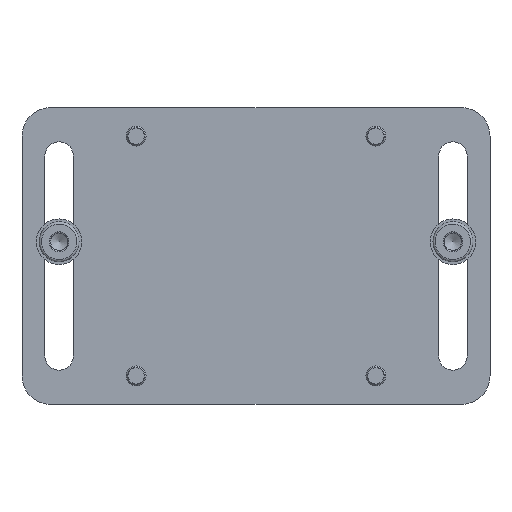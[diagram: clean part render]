
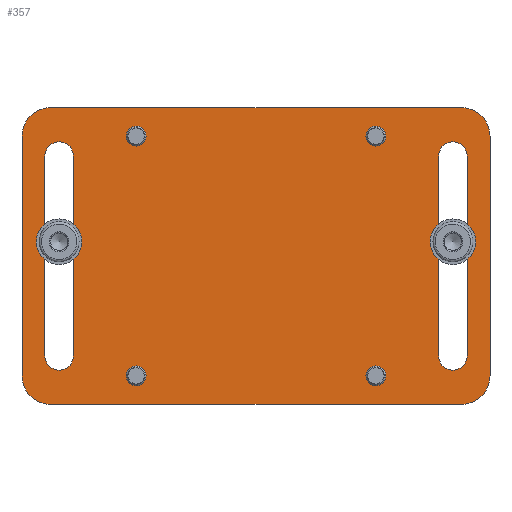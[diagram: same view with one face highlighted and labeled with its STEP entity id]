
A CAD part, front view. The second image highlights one B-rep face of the part: STEP entity #357.
In plain terms, the highlighted planar face has unit normal (0, -1, 0).
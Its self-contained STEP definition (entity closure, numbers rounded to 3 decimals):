
#207=FACE_BOUND('',#574,.T.);
#208=FACE_BOUND('',#575,.T.);
#209=FACE_BOUND('',#576,.T.);
#210=FACE_BOUND('',#577,.T.);
#211=FACE_BOUND('',#578,.T.);
#212=FACE_BOUND('',#579,.T.);
#213=FACE_BOUND('',#580,.T.);
#276=CIRCLE('',#1578,2.5);
#278=CIRCLE('',#1583,2.5);
#280=CIRCLE('',#1587,5.);
#282=CIRCLE('',#1591,5.);
#284=CIRCLE('',#1595,5.);
#286=CIRCLE('',#1599,5.);
#288=CIRCLE('',#1602,2.5);
#291=CIRCLE('',#1606,1.75);
#293=CIRCLE('',#1609,1.75);
#295=CIRCLE('',#1612,1.75);
#297=CIRCLE('',#1615,1.75);
#298=CIRCLE('',#1618,2.5);
#357=ADVANCED_FACE('',(#207,#208,#209,#210,#211,#212,#213),#435,.F.);
#435=PLANE('',#1626);
#574=EDGE_LOOP('',(#761,#762,#763,#764,#765,#766,#767,#768));
#575=EDGE_LOOP('',(#769));
#576=EDGE_LOOP('',(#770));
#577=EDGE_LOOP('',(#771));
#578=EDGE_LOOP('',(#772));
#579=EDGE_LOOP('',(#773,#774,#775,#776));
#580=EDGE_LOOP('',(#777,#778,#779,#780));
#761=ORIENTED_EDGE('',*,*,#1184,.F.);
#762=ORIENTED_EDGE('',*,*,#1216,.F.);
#763=ORIENTED_EDGE('',*,*,#1203,.F.);
#764=ORIENTED_EDGE('',*,*,#1200,.F.);
#765=ORIENTED_EDGE('',*,*,#1197,.F.);
#766=ORIENTED_EDGE('',*,*,#1194,.F.);
#767=ORIENTED_EDGE('',*,*,#1191,.F.);
#768=ORIENTED_EDGE('',*,*,#1188,.F.);
#769=ORIENTED_EDGE('',*,*,#1215,.T.);
#770=ORIENTED_EDGE('',*,*,#1213,.T.);
#771=ORIENTED_EDGE('',*,*,#1211,.T.);
#772=ORIENTED_EDGE('',*,*,#1209,.T.);
#773=ORIENTED_EDGE('',*,*,#1174,.F.);
#774=ORIENTED_EDGE('',*,*,#1206,.F.);
#775=ORIENTED_EDGE('',*,*,#1181,.F.);
#776=ORIENTED_EDGE('',*,*,#1178,.F.);
#777=ORIENTED_EDGE('',*,*,#1164,.T.);
#778=ORIENTED_EDGE('',*,*,#1218,.T.);
#779=ORIENTED_EDGE('',*,*,#1171,.T.);
#780=ORIENTED_EDGE('',*,*,#1168,.T.);
#1037=VERTEX_POINT('',#2187);
#1038=VERTEX_POINT('',#2188);
#1041=VERTEX_POINT('',#2196);
#1043=VERTEX_POINT('',#2202);
#1045=VERTEX_POINT('',#2208);
#1046=VERTEX_POINT('',#2209);
#1049=VERTEX_POINT('',#2217);
#1051=VERTEX_POINT('',#2223);
#1053=VERTEX_POINT('',#2229);
#1054=VERTEX_POINT('',#2230);
#1057=VERTEX_POINT('',#2238);
#1059=VERTEX_POINT('',#2244);
#1061=VERTEX_POINT('',#2250);
#1063=VERTEX_POINT('',#2256);
#1065=VERTEX_POINT('',#2262);
#1067=VERTEX_POINT('',#2268);
#1070=VERTEX_POINT('',#2279);
#1072=VERTEX_POINT('',#2284);
#1074=VERTEX_POINT('',#2289);
#1076=VERTEX_POINT('',#2294);
#1164=EDGE_CURVE('',#1037,#1038,#1348,.T.);
#1168=EDGE_CURVE('',#1041,#1037,#276,.T.);
#1171=EDGE_CURVE('',#1043,#1041,#1353,.T.);
#1174=EDGE_CURVE('',#1045,#1046,#1356,.T.);
#1178=EDGE_CURVE('',#1046,#1049,#278,.T.);
#1181=EDGE_CURVE('',#1049,#1051,#1361,.T.);
#1184=EDGE_CURVE('',#1053,#1054,#280,.T.);
#1188=EDGE_CURVE('',#1054,#1057,#1366,.T.);
#1191=EDGE_CURVE('',#1057,#1059,#282,.T.);
#1194=EDGE_CURVE('',#1059,#1061,#1370,.T.);
#1197=EDGE_CURVE('',#1061,#1063,#284,.T.);
#1200=EDGE_CURVE('',#1063,#1065,#1374,.T.);
#1203=EDGE_CURVE('',#1065,#1067,#286,.T.);
#1206=EDGE_CURVE('',#1051,#1045,#288,.T.);
#1209=EDGE_CURVE('',#1070,#1070,#291,.T.);
#1211=EDGE_CURVE('',#1072,#1072,#293,.T.);
#1213=EDGE_CURVE('',#1074,#1074,#295,.T.);
#1215=EDGE_CURVE('',#1076,#1076,#297,.T.);
#1216=EDGE_CURVE('',#1067,#1053,#1378,.T.);
#1218=EDGE_CURVE('',#1038,#1043,#298,.T.);
#1348=LINE('',#2186,#1462);
#1353=LINE('',#2201,#1467);
#1356=LINE('',#2207,#1470);
#1361=LINE('',#2222,#1475);
#1366=LINE('',#2237,#1480);
#1370=LINE('',#2249,#1484);
#1374=LINE('',#2261,#1488);
#1378=LINE('',#2296,#1492);
#1462=VECTOR('',#1743,1.);
#1467=VECTOR('',#1756,1.);
#1470=VECTOR('',#1761,1.);
#1475=VECTOR('',#1774,1.);
#1480=VECTOR('',#1787,1.);
#1484=VECTOR('',#1799,1.);
#1488=VECTOR('',#1811,1.);
#1492=VECTOR('',#1853,1.);
#1578=AXIS2_PLACEMENT_3D('',#2195,#1749,#1750);
#1583=AXIS2_PLACEMENT_3D('',#2216,#1767,#1768);
#1587=AXIS2_PLACEMENT_3D('',#2228,#1779,#1780);
#1591=AXIS2_PLACEMENT_3D('',#2243,#1792,#1793);
#1595=AXIS2_PLACEMENT_3D('',#2255,#1804,#1805);
#1599=AXIS2_PLACEMENT_3D('',#2267,#1816,#1817);
#1602=AXIS2_PLACEMENT_3D('',#2273,#1823,#1824);
#1606=AXIS2_PLACEMENT_3D('',#2278,#1831,#1832);
#1609=AXIS2_PLACEMENT_3D('',#2283,#1837,#1838);
#1612=AXIS2_PLACEMENT_3D('',#2288,#1843,#1844);
#1615=AXIS2_PLACEMENT_3D('',#2293,#1849,#1850);
#1618=AXIS2_PLACEMENT_3D('',#2299,#1857,#1858);
#1626=AXIS2_PLACEMENT_3D('',#2311,#1873,#1874);
#1743=DIRECTION('',(0.,0.,-1.));
#1749=DIRECTION('',(0.,1.,0.));
#1750=DIRECTION('',(-1.,0.,0.));
#1756=DIRECTION('',(0.,0.,1.));
#1761=DIRECTION('',(0.,0.,1.));
#1767=DIRECTION('',(0.,-1.,0.));
#1768=DIRECTION('',(1.,0.,0.));
#1774=DIRECTION('',(0.,0.,-1.));
#1779=DIRECTION('',(0.,1.,0.));
#1780=DIRECTION('',(1.,0.,0.));
#1787=DIRECTION('',(-1.,0.,0.));
#1792=DIRECTION('',(0.,1.,0.));
#1793=DIRECTION('',(1.,0.,0.));
#1799=DIRECTION('',(0.,0.,1.));
#1804=DIRECTION('',(0.,1.,0.));
#1805=DIRECTION('',(1.,0.,0.));
#1811=DIRECTION('',(1.,0.,0.));
#1816=DIRECTION('',(0.,1.,0.));
#1817=DIRECTION('',(1.,0.,0.));
#1823=DIRECTION('',(0.,-1.,0.));
#1824=DIRECTION('',(1.,0.,0.));
#1831=DIRECTION('',(0.,1.,0.));
#1832=DIRECTION('',(1.,0.,0.));
#1837=DIRECTION('',(0.,1.,0.));
#1838=DIRECTION('',(1.,0.,0.));
#1843=DIRECTION('',(0.,1.,0.));
#1844=DIRECTION('',(1.,0.,0.));
#1849=DIRECTION('',(0.,1.,0.));
#1850=DIRECTION('',(1.,0.,0.));
#1853=DIRECTION('',(0.,0.,-1.));
#1857=DIRECTION('',(0.,1.,0.));
#1858=DIRECTION('',(-1.,0.,0.));
#1873=DIRECTION('',(0.,1.,0.));
#1874=DIRECTION('',(1.,0.,0.));
#2186=CARTESIAN_POINT('',(-53.,16.,-11.5));
#2187=CARTESIAN_POINT('',(-53.,16.,-11.5));
#2188=CARTESIAN_POINT('',(-53.,16.,-46.5));
#2195=CARTESIAN_POINT('',(-55.5,16.,-11.5));
#2196=CARTESIAN_POINT('',(-58.,16.,-11.5));
#2201=CARTESIAN_POINT('',(-58.,16.,-46.5));
#2202=CARTESIAN_POINT('',(-58.,16.,-46.5));
#2207=CARTESIAN_POINT('',(16.,16.,-46.5));
#2208=CARTESIAN_POINT('',(16.,16.,-46.5));
#2209=CARTESIAN_POINT('',(16.,16.,-11.5));
#2216=CARTESIAN_POINT('',(13.5,16.,-11.5));
#2217=CARTESIAN_POINT('',(11.,16.,-11.5));
#2222=CARTESIAN_POINT('',(11.,16.,-11.5));
#2223=CARTESIAN_POINT('',(11.,16.,-46.5));
#2228=CARTESIAN_POINT('',(15.,16.,-50.));
#2229=CARTESIAN_POINT('',(20.,16.,-50.));
#2230=CARTESIAN_POINT('',(15.,16.,-55.));
#2237=CARTESIAN_POINT('',(15.,16.,-55.));
#2238=CARTESIAN_POINT('',(-57.,16.,-55.));
#2243=CARTESIAN_POINT('',(-57.,16.,-50.));
#2244=CARTESIAN_POINT('',(-62.,16.,-50.));
#2249=CARTESIAN_POINT('',(-62.,16.,-50.));
#2250=CARTESIAN_POINT('',(-62.,16.,-8.));
#2255=CARTESIAN_POINT('',(-57.,16.,-8.));
#2256=CARTESIAN_POINT('',(-57.,16.,-3.));
#2261=CARTESIAN_POINT('',(-57.,16.,-3.));
#2262=CARTESIAN_POINT('',(15.,16.,-3.));
#2267=CARTESIAN_POINT('',(15.,16.,-8.));
#2268=CARTESIAN_POINT('',(20.,16.,-8.));
#2273=CARTESIAN_POINT('',(13.5,16.,-46.5));
#2278=CARTESIAN_POINT('',(-42.,16.,-8.));
#2279=CARTESIAN_POINT('',(-40.25,16.,-8.));
#2283=CARTESIAN_POINT('',(0.,16.,-8.));
#2284=CARTESIAN_POINT('',(1.75,16.,-8.));
#2288=CARTESIAN_POINT('',(0.,16.,-50.));
#2289=CARTESIAN_POINT('',(1.75,16.,-50.));
#2293=CARTESIAN_POINT('',(-42.,16.,-50.));
#2294=CARTESIAN_POINT('',(-40.25,16.,-50.));
#2296=CARTESIAN_POINT('',(20.,16.,-8.));
#2299=CARTESIAN_POINT('',(-55.5,16.,-46.5));
#2311=CARTESIAN_POINT('',(15.,16.,-50.));
